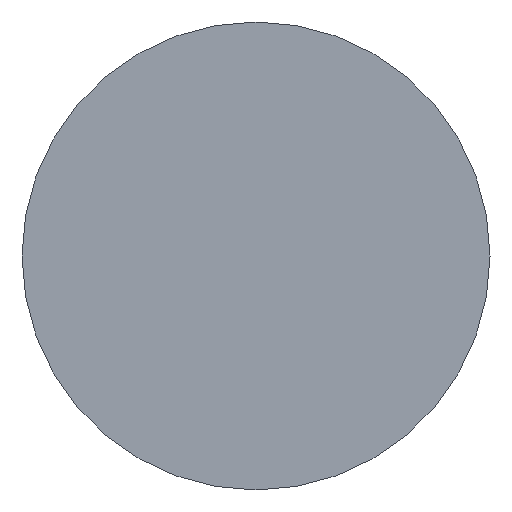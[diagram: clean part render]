
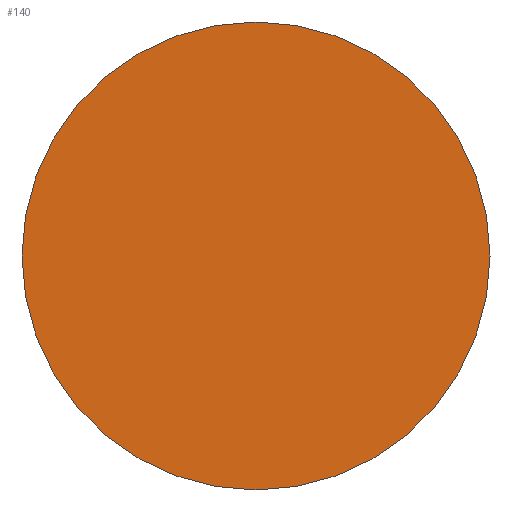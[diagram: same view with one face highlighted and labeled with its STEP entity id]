
A CAD part, front view. The second image highlights one B-rep face of the part: STEP entity #140.
In plain terms, the highlighted planar face has unit normal (0, -1, 0).
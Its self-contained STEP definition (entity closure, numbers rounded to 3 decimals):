
#31 = CYLINDRICAL_SURFACE('',#32,9.3);
#32 = AXIS2_PLACEMENT_3D('',#33,#34,#35);
#33 = CARTESIAN_POINT('',(-224.5,-104.,68.94));
#34 = DIRECTION('',(0.,1.,0.));
#35 = DIRECTION('',(0.,-0.,1.));
#56 = VERTEX_POINT('',#57);
#57 = CARTESIAN_POINT('',(-224.5,-104.,78.24));
#78 = EDGE_CURVE('',#56,#56,#79,.T.);
#79 = SURFACE_CURVE('',#80,(#85,#92),.PCURVE_S1.);
#80 = CIRCLE('',#81,9.3);
#81 = AXIS2_PLACEMENT_3D('',#82,#83,#84);
#82 = CARTESIAN_POINT('',(-224.5,-104.,68.94));
#83 = DIRECTION('',(0.,1.,0.));
#84 = DIRECTION('',(0.,-0.,1.));
#85 = PCURVE('',#31,#86);
#86 = DEFINITIONAL_REPRESENTATION('',(#87),#91);
#87 = LINE('',#88,#89);
#88 = CARTESIAN_POINT('',(0.,0.));
#89 = VECTOR('',#90,1.);
#90 = DIRECTION('',(1.,0.));
#91 = ( GEOMETRIC_REPRESENTATION_CONTEXT(2) 
PARAMETRIC_REPRESENTATION_CONTEXT() REPRESENTATION_CONTEXT('2D SPACE',''
  ) );
#92 = PCURVE('',#93,#98);
#93 = PLANE('',#94);
#94 = AXIS2_PLACEMENT_3D('',#95,#96,#97);
#95 = CARTESIAN_POINT('',(-224.5,-104.,68.94));
#96 = DIRECTION('',(0.,1.,0.));
#97 = DIRECTION('',(0.,-0.,1.));
#98 = DEFINITIONAL_REPRESENTATION('',(#99),#103);
#99 = CIRCLE('',#100,9.3);
#100 = AXIS2_PLACEMENT_2D('',#101,#102);
#101 = CARTESIAN_POINT('',(0.,0.));
#102 = DIRECTION('',(1.,0.));
#103 = ( GEOMETRIC_REPRESENTATION_CONTEXT(2) 
PARAMETRIC_REPRESENTATION_CONTEXT() REPRESENTATION_CONTEXT('2D SPACE',''
  ) );
#140 = ADVANCED_FACE('',(#141),#93,.F.);
#141 = FACE_BOUND('',#142,.T.);
#142 = EDGE_LOOP('',(#143));
#143 = ORIENTED_EDGE('',*,*,#78,.F.);
